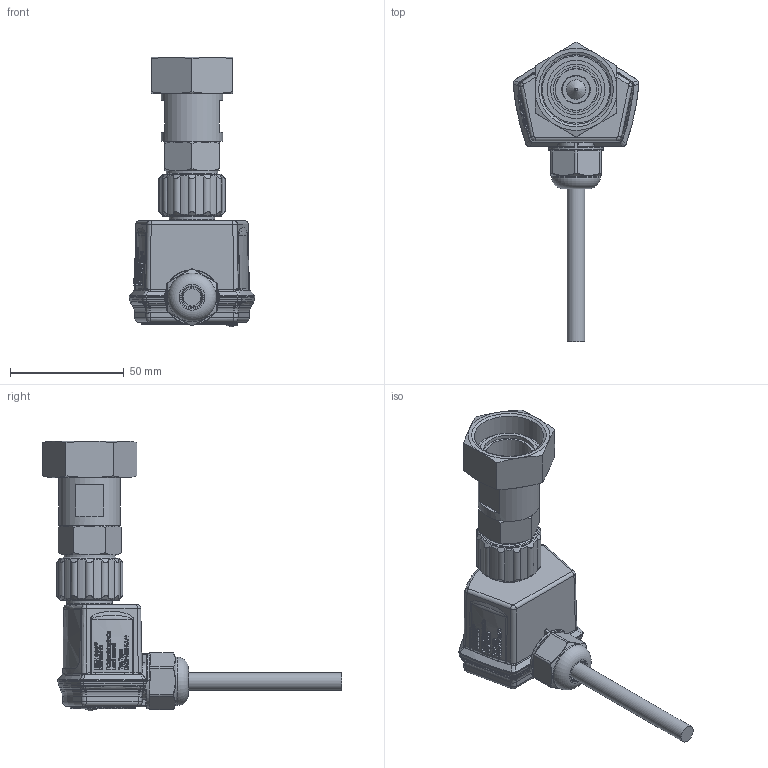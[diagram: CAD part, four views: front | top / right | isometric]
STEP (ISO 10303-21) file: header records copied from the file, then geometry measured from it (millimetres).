
FILE_DESCRIPTION(/* description */ (''),/* implementation_level */ '2;1');
FILE_NAME(/* name */ 'P:\ENC3\ENC3-M20-1_1_4\ENC3-M20-1_1_4.stp',/* time_stamp */ '2017-04-26T08:44:06+02:00',/* author */ ('neufeld'),/* organization */ (''),/* preprocessor_version */ 'ST-DEVELOPER v16.1',/* originating_system */ 'Autodesk Inventor 2016',/* authorisation */ '');
FILE_SCHEMA (('AUTOMOTIVE_DESIGN { 1 0 10303 214 3 1 1 }'));
Products named in the file (1): ENC3-M20-1_1_4_AG-Kunde
Bounding box: 55.24 x 131.43 x 118.48 mm (x, y, z)
Volume: 3694.6 mm3; surface area: 46557.6 mm2
Topology: 4 solids, 5 shells, 3004 faces, 7845 edges, 4851 vertices
Faces by surface type: bspline 1324, plane 601, cylinder 512, torus 251, cone 250, sphere 66
Full cylindrical faces by diameter (mm): 1 x1, 3.25 x1, 5 x1, 7.65 x1, 9 x1, 12 x1, 12.1 x1, 17 x2, 17.95 x1, 18 x1, 18.376 x2, 19.4 x3, 19.7 x1, 20 x4, 20.5 x2, 21.25 x1, 22.22 x1, 22.5 x1, 23 x1, 24.4 x1, 24.5 x1, 25.4 x1, 27 x1, 27.1 x1, 29.5 x1, 30.5 x1
Entity records: 133887 total; most frequent: CARTESIAN_POINT 68016, ORIENTED_EDGE 15236, DIRECTION 10306, EDGE_CURVE 7617, VERTEX_POINT 4804, AXIS2_PLACEMENT_3D 3915, EDGE_LOOP 3225, FACE_OUTER_BOUND 2997
